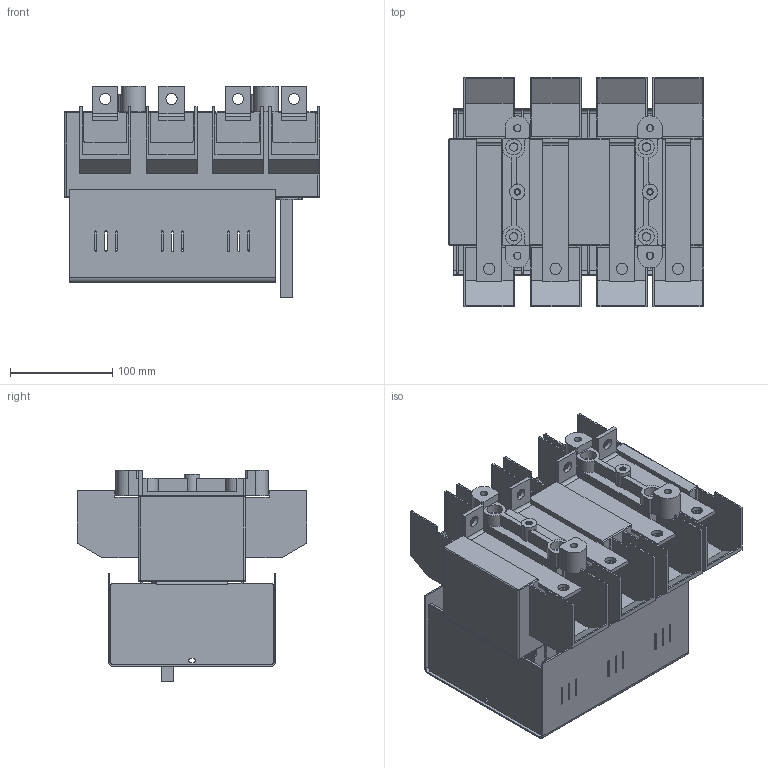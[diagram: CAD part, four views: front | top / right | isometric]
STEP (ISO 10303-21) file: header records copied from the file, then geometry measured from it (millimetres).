
FILE_DESCRIPTION(/* description */ (''),/* implementation_level */ '2;1');
FILE_NAME(/* name */ 'RAB 1 P3 NB z oslona zaciskow.stp',/* time_stamp */ '2021-08-19T12:49:26+02:00',/* author */ (''),/* organization */ (''),/* preprocessor_version */ 'ST-DEVELOPER v18.1',/* originating_system */ 'SIEMENS PLM Software NX 1965',/* authorisation */ '');
FILE_SCHEMA (('AUTOMOTIVE_DESIGN { 1 0 10303 214 3 1 1 1 }'));
Length unit declared in the file: millimetre
Products named in the file (1): RAB 1 P3 NB z oslona zaciskow_stp
Bounding box: 250 x 225 x 207.3 mm (x, y, z)
Volume: 2589712.8 mm3; surface area: 602483 mm2
Topology: 1 solids, 1 shells, 1220 faces, 3406 edges, 2226 vertices
Faces by surface type: plane 854, cylinder 358, bspline 5, torus 3
Full cylindrical faces by diameter (mm): 4.8 x2, 6.2 x2, 7 x4, 8.2 x4, 11 x8, 14 x4, 15 x2, 15.5 x4
Entity records: 39099 total; most frequent: CARTESIAN_POINT 6932, ORIENTED_EDGE 6744, DIRECTION 6548, EDGE_CURVE 3372, LINE 2616, VECTOR 2616, VERTEX_POINT 2222, AXIS2_PLACEMENT_3D 1966
